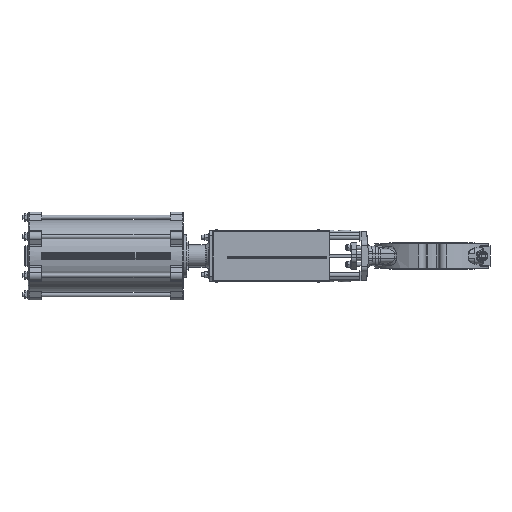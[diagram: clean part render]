
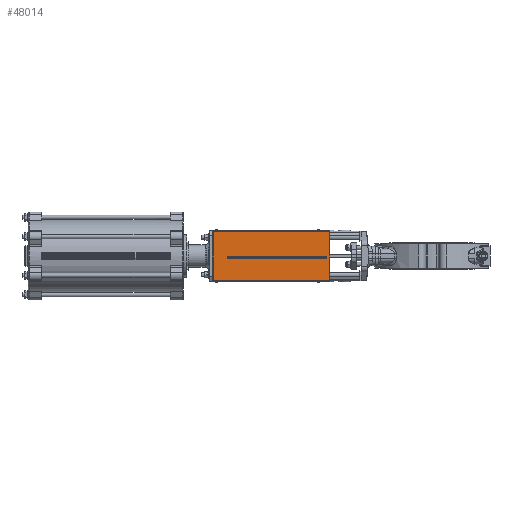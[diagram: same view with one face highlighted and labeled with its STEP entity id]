
A CAD part, left-side view. The second image highlights one B-rep face of the part: STEP entity #48014.
In plain terms, the highlighted planar face has unit normal (-1, 0, 0).
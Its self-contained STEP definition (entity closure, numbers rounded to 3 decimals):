
#2209=FACE_BOUND('',#9775,.T.);
#3461=PLANE('',#53515);
#6564=FACE_OUTER_BOUND('',#9774,.T.);
#9774=EDGE_LOOP('',(#41759,#41760,#41761,#41762));
#9775=EDGE_LOOP('',(#41763,#41764,#41765,#41766));
#12493=LINE('',#92023,#14891);
#12496=LINE('',#92036,#14894);
#12504=LINE('',#92059,#14902);
#12519=LINE('',#92087,#14917);
#12523=LINE('',#92099,#14921);
#12541=LINE('',#92155,#14939);
#14891=VECTOR('',#66251,1.);
#14894=VECTOR('',#66264,1.);
#14902=VECTOR('',#66286,1.);
#14917=VECTOR('',#66309,1.);
#14921=VECTOR('',#66321,1.);
#14939=VECTOR('',#66405,1.);
#17938=CIRCLE('',#53479,3.);
#17940=CIRCLE('',#53483,3.);
#22430=VERTEX_POINT('',#92016);
#22433=VERTEX_POINT('',#92021);
#22438=VERTEX_POINT('',#92034);
#22446=VERTEX_POINT('',#92057);
#22454=VERTEX_POINT('',#92084);
#22455=VERTEX_POINT('',#92086);
#22457=VERTEX_POINT('',#92092);
#22459=VERTEX_POINT('',#92098);
#28981=EDGE_CURVE('',#22433,#22430,#12493,.T.);
#28987=EDGE_CURVE('',#22433,#22438,#12496,.T.);
#29000=EDGE_CURVE('',#22438,#22446,#12504,.T.);
#29015=EDGE_CURVE('',#22455,#22454,#12519,.T.);
#29018=EDGE_CURVE('',#22457,#22455,#17938,.T.);
#29021=EDGE_CURVE('',#22459,#22457,#12523,.T.);
#29024=EDGE_CURVE('',#22454,#22459,#17940,.T.);
#29055=EDGE_CURVE('',#22430,#22446,#12541,.T.);
#41759=ORIENTED_EDGE('',*,*,#29055,.F.);
#41760=ORIENTED_EDGE('',*,*,#28981,.F.);
#41761=ORIENTED_EDGE('',*,*,#28987,.T.);
#41762=ORIENTED_EDGE('',*,*,#29000,.T.);
#41763=ORIENTED_EDGE('',*,*,#29015,.T.);
#41764=ORIENTED_EDGE('',*,*,#29024,.T.);
#41765=ORIENTED_EDGE('',*,*,#29021,.T.);
#41766=ORIENTED_EDGE('',*,*,#29018,.T.);
#48014=ADVANCED_FACE('',(#6564,#2209),#3461,.F.);
#53479=AXIS2_PLACEMENT_3D('',#92093,#66315,#66316);
#53483=AXIS2_PLACEMENT_3D('',#92103,#66327,#66328);
#53515=AXIS2_PLACEMENT_3D('',#92158,#66409,#66410);
#66251=DIRECTION('',(0.,0.,1.));
#66264=DIRECTION('',(0.,-1.,0.));
#66286=DIRECTION('',(0.,0.,1.));
#66309=DIRECTION('',(0.,1.,0.));
#66315=DIRECTION('center_axis',(1.,0.,0.));
#66316=DIRECTION('ref_axis',(0.,-1.,0.));
#66321=DIRECTION('',(0.,-1.,0.));
#66327=DIRECTION('center_axis',(1.,0.,0.));
#66328=DIRECTION('ref_axis',(0.,-1.,0.));
#66405=DIRECTION('',(0.,-1.,0.));
#66409=DIRECTION('center_axis',(1.,0.,0.));
#66410=DIRECTION('ref_axis',(0.,0.,
-1.));
#92016=CARTESIAN_POINT('',(-126.,639.,71.5));
#92021=CARTESIAN_POINT('',(-126.,639.,-71.5));
#92023=CARTESIAN_POINT('',(-126.,639.,-71.5));
#92034=CARTESIAN_POINT('',(-126.,299.,-71.5));
#92036=CARTESIAN_POINT('',(-126.,639.,-71.5));
#92057=CARTESIAN_POINT('',(-126.,299.,71.5));
#92059=CARTESIAN_POINT('',(-126.,299.,-71.5));
#92084=CARTESIAN_POINT('',(-126.,594.,-8.));
#92086=CARTESIAN_POINT('',(-126.,310.,-8.));
#92087=CARTESIAN_POINT('',(-126.,310.,-8.));
#92092=CARTESIAN_POINT('',(-126.,310.,-2.));
#92093=CARTESIAN_POINT('Origin',(-126.,310.,-5.));
#92098=CARTESIAN_POINT('',(-126.,594.,-2.));
#92099=CARTESIAN_POINT('',(-126.,594.,-2.));
#92103=CARTESIAN_POINT('Origin',(-126.,594.,-5.));
#92155=CARTESIAN_POINT('',(-126.,639.,71.5));
#92158=CARTESIAN_POINT('Origin',(-126.,639.,-71.5));
